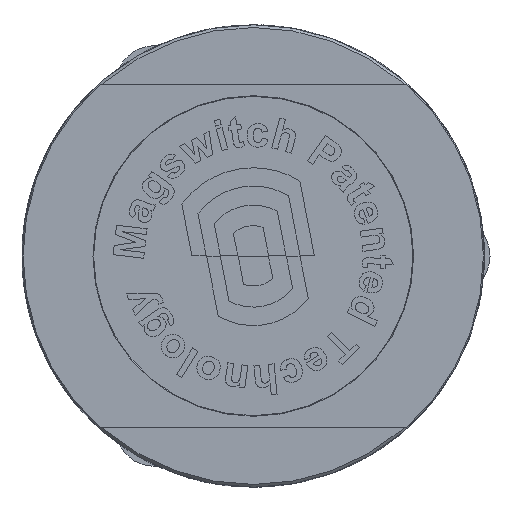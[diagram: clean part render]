
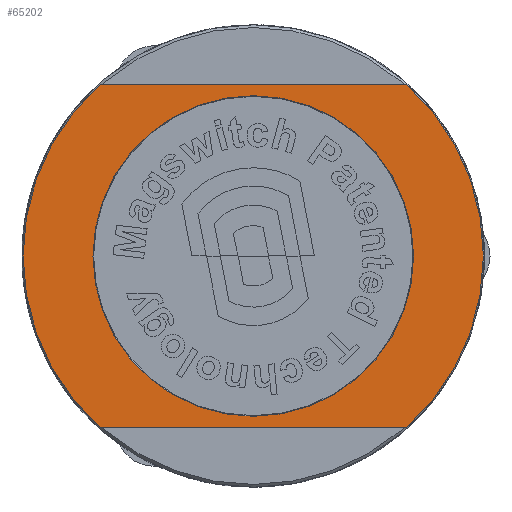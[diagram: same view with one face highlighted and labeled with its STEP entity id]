
A CAD part, front view. The second image highlights one B-rep face of the part: STEP entity #65202.
In plain terms, the highlighted planar face has unit normal (0, -1, 0).
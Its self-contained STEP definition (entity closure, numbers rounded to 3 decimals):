
#72 = VERTEX_POINT ( 'NONE', #38351 ) ;
#76 = VERTEX_POINT ( 'NONE', #73126 ) ;
#1758 = CARTESIAN_POINT ( 'NONE',  ( -13.909, 25., 15.6 ) ) ;
#1868 = CARTESIAN_POINT ( 'NONE',  ( 0., 25., 0. ) ) ;
#2793 = ORIENTED_EDGE ( 'NONE', *, *, #17984, .T. ) ;
#3883 = CIRCLE ( 'NONE', #24374, 14.558 ) ;
#5813 = CARTESIAN_POINT ( 'NONE',  ( -13.909, 25., -15.6 ) ) ;
#6102 = DIRECTION ( 'NONE',  ( 0., 0., 1. ) ) ;
#7804 = EDGE_CURVE ( 'NONE', #10510, #55000, #52120, .T. ) ;
#9461 = ORIENTED_EDGE ( 'NONE', *, *, #61067, .T. ) ;
#10510 = VERTEX_POINT ( 'NONE', #46775 ) ;
#11752 = CIRCLE ( 'NONE', #56401, 20.9 ) ;
#12092 = CARTESIAN_POINT ( 'NONE',  ( -12.516, 25., -15.6 ) ) ;
#12139 = CARTESIAN_POINT ( 'NONE',  ( 0., 25., 0. ) ) ;
#12369 = CARTESIAN_POINT ( 'NONE',  ( 0., 25., 0. ) ) ;
#17984 = EDGE_CURVE ( 'NONE', #10510, #76, #18593, .T. ) ;
#18593 = CIRCLE ( 'NONE', #27037, 20.9 ) ;
#21369 = CARTESIAN_POINT ( 'NONE',  ( -12.516, 25., 15.6 ) ) ;
#24374 = AXIS2_PLACEMENT_3D ( 'NONE', #1868, #46436, #69489 ) ;
#24432 = DIRECTION ( 'NONE',  ( 0., -1., 0. ) ) ;
#24805 = ORIENTED_EDGE ( 'NONE', *, *, #7804, .F. ) ;
#25296 = CARTESIAN_POINT ( 'NONE',  ( 0., 25., 0. ) ) ;
#27037 = AXIS2_PLACEMENT_3D ( 'NONE', #12139, #41553, #6102 ) ;
#28313 = AXIS2_PLACEMENT_3D ( 'NONE', #25296, #63571, #36965 ) ;
#31401 = PLANE ( 'NONE',  #45125 ) ;
#35234 = ORIENTED_EDGE ( 'NONE', *, *, #54119, .T. ) ;
#36965 = DIRECTION ( 'NONE',  ( 0., 0., 1. ) ) ;
#37409 = DIRECTION ( 'NONE',  ( 0., 0., 1. ) ) ;
#37716 = VERTEX_POINT ( 'NONE', #1758 ) ;
#37900 = CIRCLE ( 'NONE', #28313, 14.558 ) ;
#38351 = CARTESIAN_POINT ( 'NONE',  ( 0., 25., -14.558 ) ) ;
#38555 = DIRECTION ( 'NONE',  ( 0., 1., 0. ) ) ;
#38804 = ORIENTED_EDGE ( 'NONE', *, *, #73993, .T. ) ;
#40219 = EDGE_LOOP ( 'NONE', ( #9461, #35234 ) ) ;
#41553 = DIRECTION ( 'NONE',  ( 0., -1., 0. ) ) ;
#43609 = ORIENTED_EDGE ( 'NONE', *, *, #51995, .F. ) ;
#45125 = AXIS2_PLACEMENT_3D ( 'NONE', #54430, #38555, #37409 ) ;
#46436 = DIRECTION ( 'NONE',  ( 0., 1., 0. ) ) ;
#46437 = DIRECTION ( 'NONE',  ( -1., 0., 0. ) ) ;
#46775 = CARTESIAN_POINT ( 'NONE',  ( 13.909, 25., -15.6 ) ) ;
#47454 = DIRECTION ( 'NONE',  ( 0., 0., 1. ) ) ;
#47972 = CARTESIAN_POINT ( 'NONE',  ( 0., 25., 14.558 ) ) ;
#49506 = FACE_BOUND ( 'NONE', #40219, .T. ) ;
#50279 = FACE_OUTER_BOUND ( 'NONE', #55215, .T. ) ;
#51995 = EDGE_CURVE ( 'NONE', #37716, #76, #73483, .T. ) ;
#52120 = LINE ( 'NONE', #12092, #52922 ) ;
#52922 = VECTOR ( 'NONE', #46437, 1000. ) ;
#54119 = EDGE_CURVE ( 'NONE', #56775, #72, #37900, .T. ) ;
#54430 = CARTESIAN_POINT ( 'NONE',  ( 0., 25., 0. ) ) ;
#55000 = VERTEX_POINT ( 'NONE', #5813 ) ;
#55215 = EDGE_LOOP ( 'NONE', ( #43609, #38804, #24805, #2793 ) ) ;
#56401 = AXIS2_PLACEMENT_3D ( 'NONE', #12369, #24432, #47454 ) ;
#56775 = VERTEX_POINT ( 'NONE', #47972 ) ;
#59545 = VECTOR ( 'NONE', #71950, 1000. ) ;
#61067 = EDGE_CURVE ( 'NONE', #72, #56775, #3883, .T. ) ;
#63571 = DIRECTION ( 'NONE',  ( 0., 1., 0. ) ) ;
#65202 = ADVANCED_FACE ( 'NONE', ( #49506, #50279 ), #31401, .F. ) ;
#69489 = DIRECTION ( 'NONE',  ( 0., 0., 1. ) ) ;
#71950 = DIRECTION ( 'NONE',  ( 1., 0., 0. ) ) ;
#73126 = CARTESIAN_POINT ( 'NONE',  ( 13.909, 25., 15.6 ) ) ;
#73483 = LINE ( 'NONE', #21369, #59545 ) ;
#73993 = EDGE_CURVE ( 'NONE', #37716, #55000, #11752, .T. ) ;
